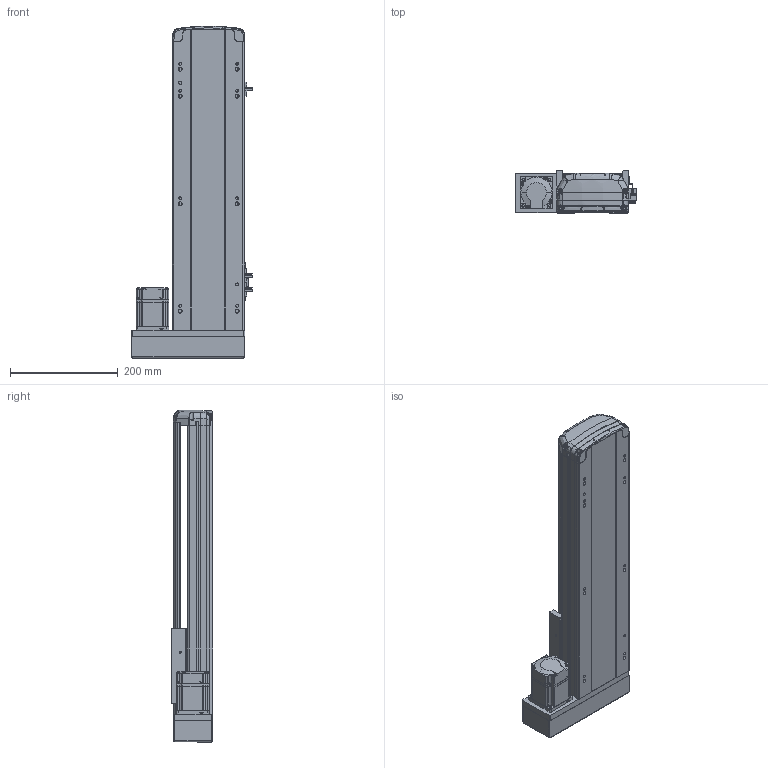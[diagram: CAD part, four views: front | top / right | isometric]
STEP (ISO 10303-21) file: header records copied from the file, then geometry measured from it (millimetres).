
FILE_DESCRIPTION (( 'STEP AP214' ), '1' );
FILE_NAME ('RTH14-XX-350-L-M20-C4.STEP', '2025-10-25T02:36:57', ( 'Microsoft' ), ( 'Microsoft' ), 'SwSTEP 2.0', 'SolidWorks 2018', '' );
FILE_SCHEMA (( 'AUTOMOTIVE_DESIGN' ));
Length unit declared in the file: millimetre
Products named in the file (10): N_RTH14-GY-001P^RTH14-XX-XX-L-M20-C4; N_RTH14-M-007P奻裔^RTH14-XX-XX-L-M20-C4; N_RTH13-L-012感应片（外置）^RTH14-XX-XX-L-M20-C4; N_RTH13-L-018 裔赽^RTH14-XX-XX-L-M20-C4; N_OMRON EE-SX672 传感器^RTH14-XX-XX-L-M20-C4; N_RTH13-L-008-P20 萇儂啣酘蛌殏^RTH14-XX-XX-L-M20-C4; N_MSMD022P1AA_200W^RTH14-XX-XX-L-M20-C4; N_RTH14-R-004-SFSR16賑釱^RTH14-XX-XX-L-M20-C4; N_RTH14-M-011P菁釱^RTH14-XX-XX-L-M20-C4; RTH14-XX-350-L-M20-C4
Assembly tree (11 placements, depth 2):
  RTH14-XX-350-L-M20-C4
    N_RTH14-M-011P菁釱^RTH14-XX-XX-L-M20-C4
    N_RTH14-M-007P奻裔^RTH14-XX-XX-L-M20-C4
    N_MSMD022P1AA_200W^RTH14-XX-XX-L-M20-C4
    N_RTH13-L-008-P20 萇儂啣酘蛌殏^RTH14-XX-XX-L-M20-C4
    N_RTH13-L-018 裔赽^RTH14-XX-XX-L-M20-C4
    N_RTH13-L-012感应片（外置）^RTH14-XX-XX-L-M20-C4
    N_OMRON EE-SX672 传感器^RTH14-XX-XX-L-M20-C4  x3
    N_RTH14-GY-001P^RTH14-XX-XX-L-M20-C4
    N_RTH14-R-004-SFSR16賑釱^RTH14-XX-XX-L-M20-C4
Bounding box: 224 x 78.03 x 617.49 mm (x, y, z)
Volume: 3014833.1 mm3; surface area: 717525.7 mm2
Topology: 11 solids, 11 shells, 1854 faces, 5177 edges, 3390 vertices
Faces by surface type: plane 987, cylinder 473, bspline 345, cone 45, torus 4
Entity records: 56431 total; most frequent: CARTESIAN_POINT 22863, ORIENTED_EDGE 7422, DIRECTION 5924, EDGE_CURVE 3711, VERTEX_POINT 2426, VECTOR 2140, LINE 2140, AXIS2_PLACEMENT_3D 1892
